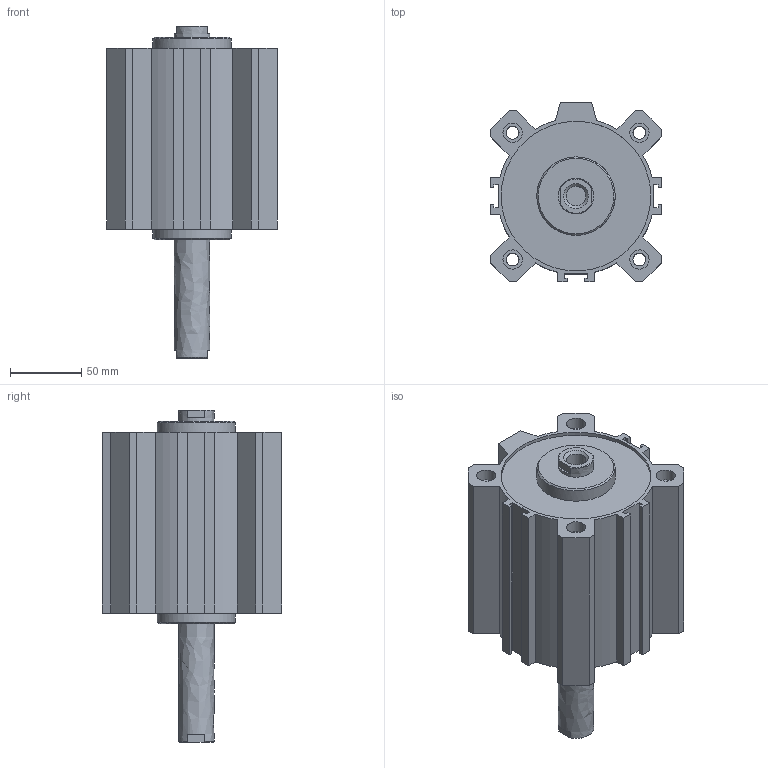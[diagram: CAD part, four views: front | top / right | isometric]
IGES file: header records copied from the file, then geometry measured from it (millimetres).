
Global section: file name: 1514_100_0075; native system: Autodesk Inventor 2014; preprocessor: unknown; author: A. Manieri; date: 20160824.163312; units: millimetre
Bounding box: 120 x 126 x 233 mm (x, y, z)
Volume: 985618.3 mm3; surface area: 209870.7 mm2
Topology: 2 solids, 2 shells, 132 faces, 346 edges, 238 vertices
Faces by surface type: bspline 132
